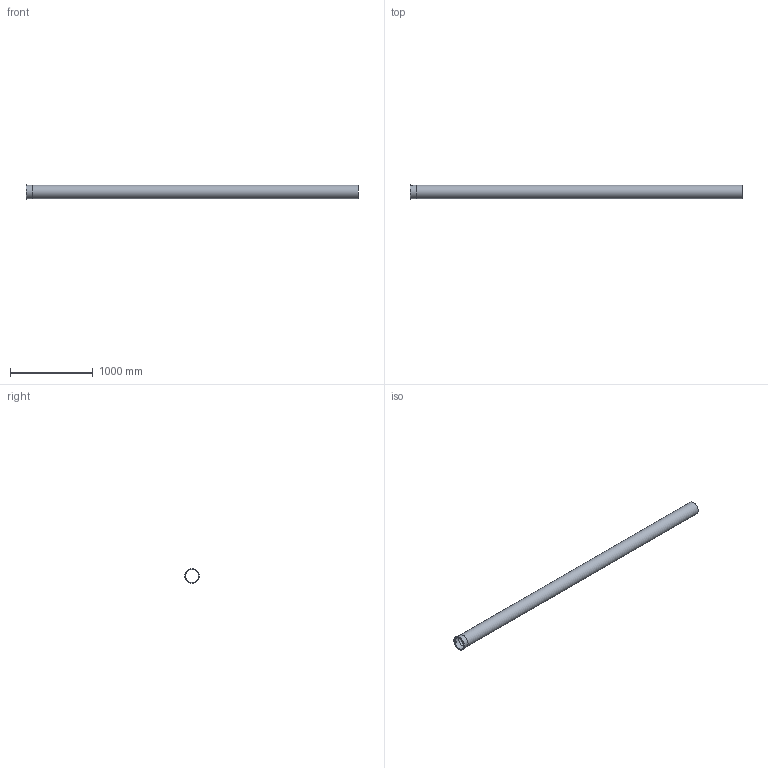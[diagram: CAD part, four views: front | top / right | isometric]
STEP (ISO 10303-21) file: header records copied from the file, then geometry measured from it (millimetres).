
FILE_DESCRIPTION((''),'2;1');
FILE_NAME('I:\WATTS\3D_CAD\3D_CAD_Models\Blucher_Drains\P_StraightPipe\WebsiteFiles\3D\STEP\P6-13.1-316.stp','2009-12-02T16:26:28',('menesek'),(''),'Autodesk Inventor 2010','Autodesk Inventor 2010','');
FILE_SCHEMA(('AUTOMOTIVE_DESIGN { 1 0 10303 214 1 1 1 1 }'));
Length unit declared in the file: inch
Products named in the file (1): P6-13.1-316
Bounding box: 4000 x 177.04 x 177.04 mm (x, y, z)
Volume: 2576667.8 mm3; surface area: 3994525.8 mm2
Topology: 1 solids, 1 shells, 109 faces, 285 edges, 190 vertices
Faces by surface type: plane 59, bspline 34, cylinder 16
Full cylindrical faces by diameter (mm): 157.226 x1, 159.766 x1, 160.782 x2, 177.038 x1
Entity records: 13936 total; most frequent: CARTESIAN_POINT 11558, ORIENTED_EDGE 548, DIRECTION 356, EDGE_CURVE 274, VERTEX_POINT 186, EDGE_LOOP 128, AXIS2_PLACEMENT_3D 120, VECTOR 116
